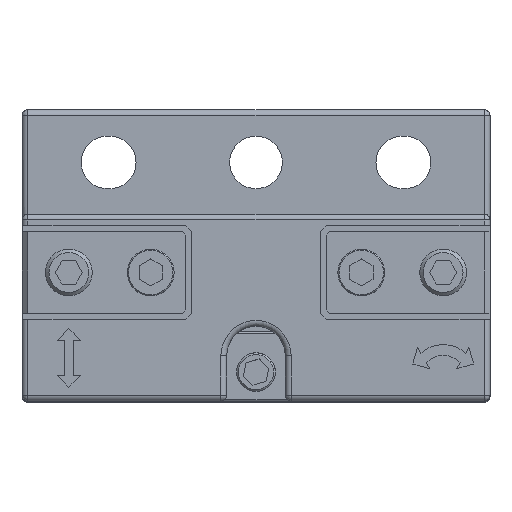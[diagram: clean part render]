
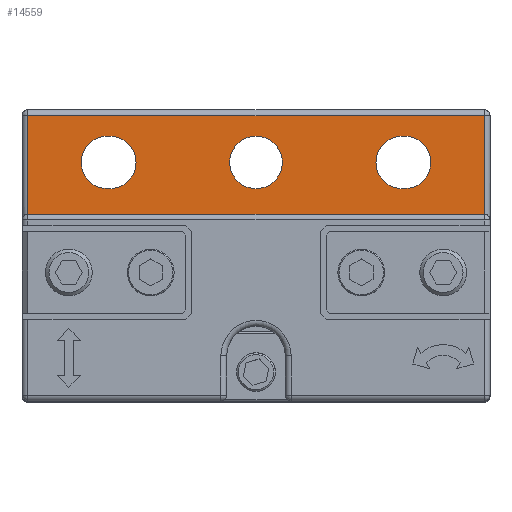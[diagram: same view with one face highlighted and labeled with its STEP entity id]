
A CAD part, top view. The second image highlights one B-rep face of the part: STEP entity #14559.
In plain terms, the highlighted planar face has unit normal (0, 0, 1).
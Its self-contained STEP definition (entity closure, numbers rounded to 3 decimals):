
#741=LINE('',#22282,#2124);
#753=LINE('',#22318,#2136);
#799=LINE('',#22689,#2182);
#801=LINE('',#22695,#2184);
#803=LINE('',#22698,#2186);
#808=LINE('',#22706,#2191);
#809=LINE('',#22708,#2192);
#810=LINE('',#22711,#2193);
#2124=VECTOR('',#17618,10.);
#2136=VECTOR('',#17658,10.);
#2182=VECTOR('',#17898,10.);
#2184=VECTOR('',#17906,10.);
#2186=VECTOR('',#17910,10.);
#2191=VECTOR('',#17921,10.);
#2192=VECTOR('',#17922,10.);
#2193=VECTOR('',#17925,10.);
#3484=FACE_BOUND('',#4618,.T.);
#3485=FACE_BOUND('',#4619,.T.);
#3486=FACE_BOUND('',#4620,.T.);
#3701=FACE_OUTER_BOUND('',#4617,.T.);
#4617=EDGE_LOOP('',(#10392,#10393,#10394,#10395));
#4618=EDGE_LOOP('',(#10396));
#4619=EDGE_LOOP('',(#10397,#10398,#10399,#10400));
#4620=EDGE_LOOP('',(#10401,#10402,#10403,#10404));
#5480=CIRCLE('',#15584,2.25);
#5483=CIRCLE('',#15589,2.25);
#5486=CIRCLE('',#15598,2.25);
#5530=CIRCLE('',#15701,2.25);
#5531=CIRCLE('',#15702,2.25);
#6314=VERTEX_POINT('',#22279);
#6315=VERTEX_POINT('',#22281);
#6316=VERTEX_POINT('',#22285);
#6319=VERTEX_POINT('',#22295);
#6324=VERTEX_POINT('',#22315);
#6325=VERTEX_POINT('',#22317);
#6326=VERTEX_POINT('',#22321);
#6384=VERTEX_POINT('',#22675);
#6386=VERTEX_POINT('',#22681);
#6387=VERTEX_POINT('',#22685);
#6388=VERTEX_POINT('',#22691);
#6389=VERTEX_POINT('',#22707);
#6390=VERTEX_POINT('',#22710);
#7759=EDGE_CURVE('',#6315,#6314,#741,.T.);
#7762=EDGE_CURVE('',#6314,#6316,#5480,.T.);
#7767=EDGE_CURVE('',#6319,#6319,#5483,.T.);
#7777=EDGE_CURVE('',#6325,#6324,#753,.T.);
#7780=EDGE_CURVE('',#6324,#6326,#5486,.T.);
#7885=EDGE_CURVE('',#6387,#6386,#799,.T.);
#7888=EDGE_CURVE('',#6388,#6387,#801,.T.);
#7890=EDGE_CURVE('',#6386,#6384,#803,.T.);
#7895=EDGE_CURVE('',#6388,#6384,#808,.T.);
#7896=EDGE_CURVE('',#6316,#6389,#809,.T.);
#7897=EDGE_CURVE('',#6389,#6315,#5530,.T.);
#7898=EDGE_CURVE('',#6326,#6390,#810,.T.);
#7899=EDGE_CURVE('',#6390,#6325,#5531,.T.);
#10392=ORIENTED_EDGE('',*,*,#7890,.F.);
#10393=ORIENTED_EDGE('',*,*,#7885,.F.);
#10394=ORIENTED_EDGE('',*,*,#7888,.F.);
#10395=ORIENTED_EDGE('',*,*,#7895,.T.);
#10396=ORIENTED_EDGE('',*,*,#7767,.T.);
#10397=ORIENTED_EDGE('',*,*,#7762,.T.);
#10398=ORIENTED_EDGE('',*,*,#7896,.T.);
#10399=ORIENTED_EDGE('',*,*,#7897,.T.);
#10400=ORIENTED_EDGE('',*,*,#7759,.T.);
#10401=ORIENTED_EDGE('',*,*,#7780,.T.);
#10402=ORIENTED_EDGE('',*,*,#7898,.T.);
#10403=ORIENTED_EDGE('',*,*,#7899,.T.);
#10404=ORIENTED_EDGE('',*,*,#7777,.T.);
#14037=PLANE('',#15700);
#14559=ADVANCED_FACE('',(#3701,#3484,#3485,#3486),#14037,.T.);
#15584=AXIS2_PLACEMENT_3D('',#22287,#17623,#17624);
#15589=AXIS2_PLACEMENT_3D('',#22297,#17635,#17636);
#15598=AXIS2_PLACEMENT_3D('',#22323,#17663,#17664);
#15700=AXIS2_PLACEMENT_3D('',#22705,#17919,#17920);
#15701=AXIS2_PLACEMENT_3D('',#22709,#17923,#17924);
#15702=AXIS2_PLACEMENT_3D('',#22712,#17926,#17927);
#17618=DIRECTION('',(-1.,0.,0.));
#17623=DIRECTION('center_axis',(0.,0.,-1.));
#17624=DIRECTION('ref_axis',(0.,1.,0.));
#17635=DIRECTION('center_axis',(0.,0.,-1.));
#17636=DIRECTION('ref_axis',(-1.,0.,0.));
#17658=DIRECTION('',(1.,0.,0.));
#17663=DIRECTION('center_axis',(0.,0.,-1.));
#17664=DIRECTION('ref_axis',(0.,-1.,0.));
#17898=DIRECTION('',(1.,0.,0.));
#17906=DIRECTION('',(0.,1.,0.));
#17910=DIRECTION('',(0.,-1.,0.));
#17919=DIRECTION('center_axis',(0.,0.,1.));
#17920=DIRECTION('ref_axis',(1.,0.,0.));
#17921=DIRECTION('',(1.,0.,0.));
#17922=DIRECTION('',(1.,0.,0.));
#17923=DIRECTION('center_axis',(0.,0.,-1.));
#17924=DIRECTION('ref_axis',(0.,-1.,0.));
#17925=DIRECTION('',(-1.,0.,0.));
#17926=DIRECTION('center_axis',(0.,0.,-1.));
#17927=DIRECTION('ref_axis',(0.,1.,0.));
#22279=CARTESIAN_POINT('',(14.5,7.25,-20.));
#22281=CARTESIAN_POINT('',(14.7,7.25,-20.));
#22282=CARTESIAN_POINT('',(8.35,7.25,-20.));
#22285=CARTESIAN_POINT('',(14.5,11.75,-20.));
#22287=CARTESIAN_POINT('Origin',(14.5,9.5,-20.));
#22295=CARTESIAN_POINT('',(4.25,9.5,-20.));
#22297=CARTESIAN_POINT('Origin',(2.,9.5,-20.));
#22315=CARTESIAN_POINT('',(-10.5,11.75,-20.));
#22317=CARTESIAN_POINT('',(-10.7,11.75,-20.));
#22318=CARTESIAN_POINT('',(-4.35,11.75,-20.));
#22321=CARTESIAN_POINT('',(-10.5,7.25,-20.));
#22323=CARTESIAN_POINT('Origin',(-10.5,9.5,-20.));
#22675=CARTESIAN_POINT('',(21.5,5.,-20.));
#22681=CARTESIAN_POINT('',(21.5,13.5,-20.));
#22685=CARTESIAN_POINT('',(-17.5,13.5,-20.));
#22689=CARTESIAN_POINT('',(-8.,13.5,-20.));
#22691=CARTESIAN_POINT('',(-17.5,5.,-20.));
#22695=CARTESIAN_POINT('',(-17.5,3.25,-20.));
#22698=CARTESIAN_POINT('',(21.5,-4.75,-20.));
#22705=CARTESIAN_POINT('Origin',(2.,1.5,-20.));
#22706=CARTESIAN_POINT('',(-18.,5.,-20.));
#22707=CARTESIAN_POINT('',(14.7,11.75,-20.));
#22708=CARTESIAN_POINT('',(8.25,11.75,-20.));
#22709=CARTESIAN_POINT('Origin',(14.7,9.5,-20.));
#22710=CARTESIAN_POINT('',(-10.7,7.25,-20.));
#22711=CARTESIAN_POINT('',(-4.25,7.25,-20.));
#22712=CARTESIAN_POINT('Origin',(-10.7,9.5,-20.));
